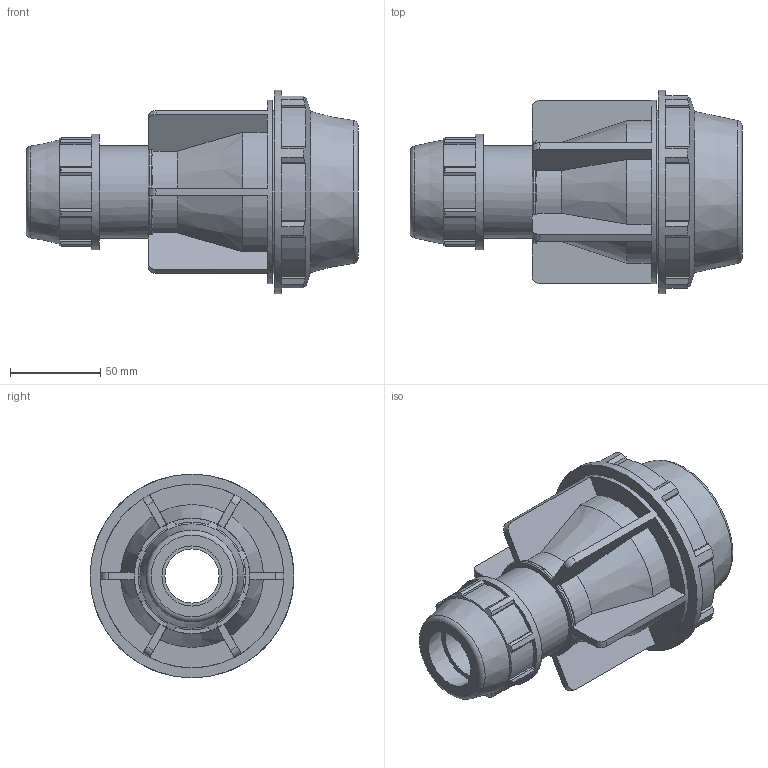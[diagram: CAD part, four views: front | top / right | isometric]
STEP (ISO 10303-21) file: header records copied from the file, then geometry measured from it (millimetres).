
FILE_DESCRIPTION(/* description */ ('PLASSON REDUCING COUPLER 2'''' - 1'''''),/* implementation_level */ '2;1');
FILE_NAME(/* name */ 'C:\Dropbox\KIMPROJECTS-Inventor 2019\99-16-3568-Processing Inch\ASTM Compression 2021\0711M0\0711M0020010.ipt.stp',/* time_stamp */ '2021-08-26T12:32:59+03:00',/* author */ ('KIM'),/* organization */ (''),/* preprocessor_version */ 'ST-DEVELOPER v17.2',/* originating_system */ 'Autodesk Inventor 2019',/* authorisation */ '');
FILE_SCHEMA (('AUTOMOTIVE_DESIGN { 1 0 10303 214 3 1 1 }'));
Length unit declared in the file: inch
Products named in the file (1): 0711M0020010
Bounding box: 184 x 113.03 x 113.03 mm (x, y, z)
Volume: 471920.5 mm3; surface area: 101862.4 mm2
Topology: 1 solids, 1 shells, 218 faces, 650 edges, 441 vertices
Faces by surface type: plane 143, cylinder 47, cone 14, torus 14
Full cylindrical faces by diameter (mm): 33.3 x1, 51.206 x1, 60.1 x1, 64.008 x1, 90.424 x1, 101.727 x1, 113.03 x1
Entity records: 7796 total; most frequent: CARTESIAN_POINT 1688, ORIENTED_EDGE 1300, DIRECTION 1189, EDGE_CURVE 650, VERTEX_POINT 441, AXIS2_PLACEMENT_3D 419, LINE 351, VECTOR 351
